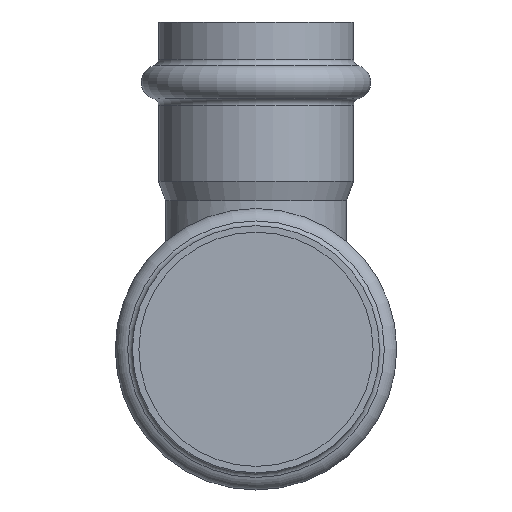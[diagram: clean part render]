
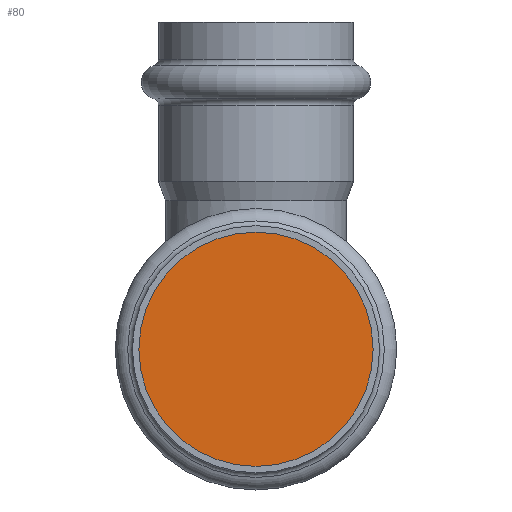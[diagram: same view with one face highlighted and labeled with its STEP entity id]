
A CAD part, front view. The second image highlights one B-rep face of the part: STEP entity #80.
In plain terms, the highlighted planar face has unit normal (0, -1, 0).
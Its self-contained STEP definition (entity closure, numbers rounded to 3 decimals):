
#80=ADVANCED_FACE('',(#325),#327,.T.);
#325=FACE_BOUND('',#326,.T.);
#326=EDGE_LOOP('',(#395));
#327=PLANE('',#328);
#328=AXIS2_PLACEMENT_3D('',#329,#330,#331);
#329=CARTESIAN_POINT('',(0.,-67.792,0.));
#330=DIRECTION('',(0.,-1.,0.));
#331=DIRECTION('',(0.,0.,-1.));
#395=ORIENTED_EDGE('',*,*,#424,.T.);
#424=EDGE_CURVE('',#480,#480,#481,.F.);
#480=VERTEX_POINT('',#849);
#481=CIRCLE('',#850,27.2);
#849=CARTESIAN_POINT('',(0.,-67.792,27.2));
#850=AXIS2_PLACEMENT_3D('',#851,#852,#853);
#851=CARTESIAN_POINT('',(0.,-67.792,0.));
#852=DIRECTION('',(0.,1.,0.));
#853=DIRECTION('',(0.,0.,1.));
